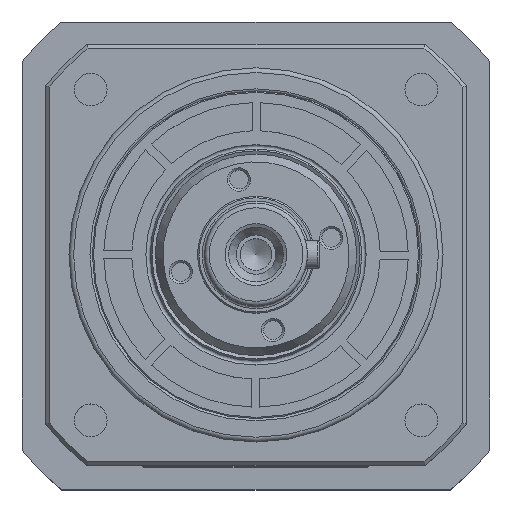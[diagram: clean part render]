
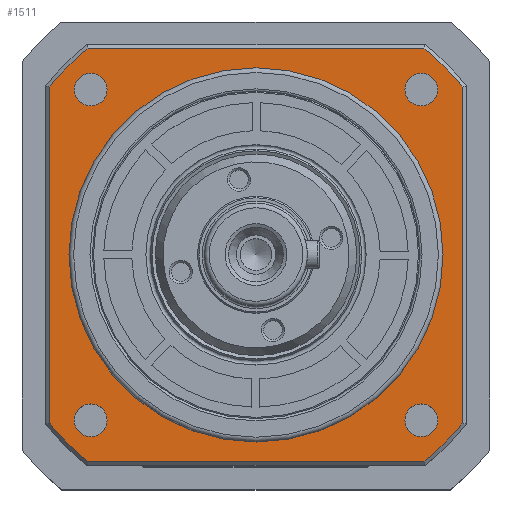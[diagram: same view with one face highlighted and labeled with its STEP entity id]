
A CAD part, top view. The second image highlights one B-rep face of the part: STEP entity #1511.
In plain terms, the highlighted planar face has unit normal (0, 0, 1).
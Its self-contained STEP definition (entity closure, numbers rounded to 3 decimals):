
#471=FACE_BOUND('',#2521,.T.);
#472=FACE_BOUND('',#2522,.T.);
#473=FACE_BOUND('',#2523,.T.);
#474=FACE_BOUND('',#2524,.T.);
#475=FACE_BOUND('',#2525,.T.);
#476=FACE_BOUND('',#2526,.T.);
#1067=CIRCLE('',#7564,56.95);
#1069=CIRCLE('',#7567,56.95);
#1070=CIRCLE('',#7569,56.95);
#1096=CIRCLE('',#7614,40.);
#1097=CIRCLE('',#7616,3.5);
#1098=CIRCLE('',#7617,3.5);
#1099=CIRCLE('',#7618,3.5);
#1100=CIRCLE('',#7619,3.5);
#1101=CIRCLE('',#7620,56.95);
#1511=ADVANCED_FACE('',(#471,#472,#473,#474,#475,#476),#1837,.T.);
#1837=PLANE('',#7621);
#2521=EDGE_LOOP('',(#3853));
#2522=EDGE_LOOP('',(#3854));
#2523=EDGE_LOOP('',(#3855));
#2524=EDGE_LOOP('',(#3856));
#2525=EDGE_LOOP('',(#3857,#3858,#3859,#3860,#3861,#3862,#3863,#3864));
#2526=EDGE_LOOP('',(#3865));
#3853=ORIENTED_EDGE('',*,*,#5928,.T.);
#3854=ORIENTED_EDGE('',*,*,#5929,.T.);
#3855=ORIENTED_EDGE('',*,*,#5930,.T.);
#3856=ORIENTED_EDGE('',*,*,#5931,.T.);
#3857=ORIENTED_EDGE('',*,*,#5861,.F.);
#3858=ORIENTED_EDGE('',*,*,#5932,.T.);
#3859=ORIENTED_EDGE('',*,*,#5863,.F.);
#3860=ORIENTED_EDGE('',*,*,#5933,.T.);
#3861=ORIENTED_EDGE('',*,*,#5934,.F.);
#3862=ORIENTED_EDGE('',*,*,#5935,.T.);
#3863=ORIENTED_EDGE('',*,*,#5857,.F.);
#3864=ORIENTED_EDGE('',*,*,#5936,.T.);
#3865=ORIENTED_EDGE('',*,*,#5927,.T.);
#5065=VERTEX_POINT('',#11393);
#5066=VERTEX_POINT('',#11395);
#5069=VERTEX_POINT('',#11408);
#5070=VERTEX_POINT('',#11410);
#5071=VERTEX_POINT('',#11417);
#5072=VERTEX_POINT('',#11418);
#5116=VERTEX_POINT('',#11587);
#5117=VERTEX_POINT('',#11590);
#5118=VERTEX_POINT('',#11592);
#5119=VERTEX_POINT('',#11594);
#5120=VERTEX_POINT('',#11596);
#5121=VERTEX_POINT('',#11599);
#5122=VERTEX_POINT('',#11601);
#5857=EDGE_CURVE('',#5065,#5066,#1067,.T.);
#5861=EDGE_CURVE('',#5069,#5070,#1069,.T.);
#5863=EDGE_CURVE('',#5071,#5072,#1070,.T.);
#5927=EDGE_CURVE('',#5116,#5116,#1096,.T.);
#5928=EDGE_CURVE('',#5117,#5117,#1097,.T.);
#5929=EDGE_CURVE('',#5118,#5118,#1098,.T.);
#5930=EDGE_CURVE('',#5119,#5119,#1099,.T.);
#5931=EDGE_CURVE('',#5120,#5120,#1100,.T.);
#5932=EDGE_CURVE('',#5069,#5072,#6561,.T.);
#5933=EDGE_CURVE('',#5071,#5121,#6562,.T.);
#5934=EDGE_CURVE('',#5122,#5121,#1101,.T.);
#5935=EDGE_CURVE('',#5122,#5066,#6563,.T.);
#5936=EDGE_CURVE('',#5065,#5070,#6564,.T.);
#6561=LINE('',#11597,#6988);
#6562=LINE('',#11598,#6989);
#6563=LINE('',#11602,#6990);
#6564=LINE('',#11603,#6991);
#6988=VECTOR('',#9187,1.);
#6989=VECTOR('',#9188,1.);
#6990=VECTOR('',#9191,1.);
#6991=VECTOR('',#9192,1.);
#7564=AXIS2_PLACEMENT_3D('',#11394,#9051,#9052);
#7567=AXIS2_PLACEMENT_3D('',#11409,#9057,#9058);
#7569=AXIS2_PLACEMENT_3D('',#11416,#9061,#9062);
#7614=AXIS2_PLACEMENT_3D('',#11586,#9175,#9176);
#7616=AXIS2_PLACEMENT_3D('',#11589,#9179,#9180);
#7617=AXIS2_PLACEMENT_3D('',#11591,#9181,#9182);
#7618=AXIS2_PLACEMENT_3D('',#11593,#9183,#9184);
#7619=AXIS2_PLACEMENT_3D('',#11595,#9185,#9186);
#7620=AXIS2_PLACEMENT_3D('',#11600,#9189,#9190);
#7621=AXIS2_PLACEMENT_3D('',#11604,#9193,#9194);
#9051=DIRECTION('',(0.,0.,-1.));
#9052=DIRECTION('',(-1.,0.,0.));
#9057=DIRECTION('',(0.,0.,-1.));
#9058=DIRECTION('',(-1.,0.,0.));
#9061=DIRECTION('',(0.,0.,-1.));
#9062=DIRECTION('',(-1.,0.,0.));
#9175=DIRECTION('',(0.,0.,-1.));
#9176=DIRECTION('',(-1.,0.,0.));
#9179=DIRECTION('',(0.,0.,-1.));
#9180=DIRECTION('',(0.,-1.,0.));
#9181=DIRECTION('',(0.,0.,-1.));
#9182=DIRECTION('',(0.,-1.,0.));
#9183=DIRECTION('',(0.,0.,-1.));
#9184=DIRECTION('',(0.,-1.,0.));
#9185=DIRECTION('',(0.,0.,-1.));
#9186=DIRECTION('',(0.,-1.,0.));
#9187=DIRECTION('',(-1.,0.,0.));
#9188=DIRECTION('',(0.,-1.,0.));
#9189=DIRECTION('',(0.,0.,-1.));
#9190=DIRECTION('',(-1.,0.,0.));
#9191=DIRECTION('',(1.,0.,0.));
#9192=DIRECTION('',(0.,1.,0.));
#9193=DIRECTION('',(0.,0.,1.));
#9194=DIRECTION('',(1.,0.,0.));
#11393=CARTESIAN_POINT('',(44.2,-35.912,95.5));
#11394=CARTESIAN_POINT('',(0.,0.,95.5));
#11395=CARTESIAN_POINT('',(35.912,-44.2,95.5));
#11408=CARTESIAN_POINT('',(35.912,44.2,95.5));
#11409=CARTESIAN_POINT('',(0.,0.,95.5));
#11410=CARTESIAN_POINT('',(44.2,35.912,95.5));
#11416=CARTESIAN_POINT('',(0.,0.,95.5));
#11417=CARTESIAN_POINT('',(-44.2,35.912,95.5));
#11418=CARTESIAN_POINT('',(-35.912,44.2,95.5));
#11586=CARTESIAN_POINT('',(0.,0.,95.5));
#11587=CARTESIAN_POINT('',(-40.,0.,95.5));
#11589=CARTESIAN_POINT('',(-35.355,-35.355,95.5));
#11590=CARTESIAN_POINT('',(-35.355,-38.855,95.5));
#11591=CARTESIAN_POINT('',(-35.355,35.355,95.5));
#11592=CARTESIAN_POINT('',(-35.355,31.855,95.5));
#11593=CARTESIAN_POINT('',(35.355,35.355,95.5));
#11594=CARTESIAN_POINT('',(35.355,31.855,95.5));
#11595=CARTESIAN_POINT('',(35.355,-35.355,95.5));
#11596=CARTESIAN_POINT('',(35.355,-38.855,95.5));
#11597=CARTESIAN_POINT('',(-34.904,44.2,95.5));
#11598=CARTESIAN_POINT('',(-44.2,-34.904,95.5));
#11599=CARTESIAN_POINT('',(-44.2,-35.912,95.5));
#11600=CARTESIAN_POINT('',(0.,0.,95.5));
#11601=CARTESIAN_POINT('',(-35.912,-44.2,95.5));
#11602=CARTESIAN_POINT('',(34.904,-44.2,95.5));
#11603=CARTESIAN_POINT('',(44.2,34.904,95.5));
#11604=CARTESIAN_POINT('',(0.,0.,95.5));
